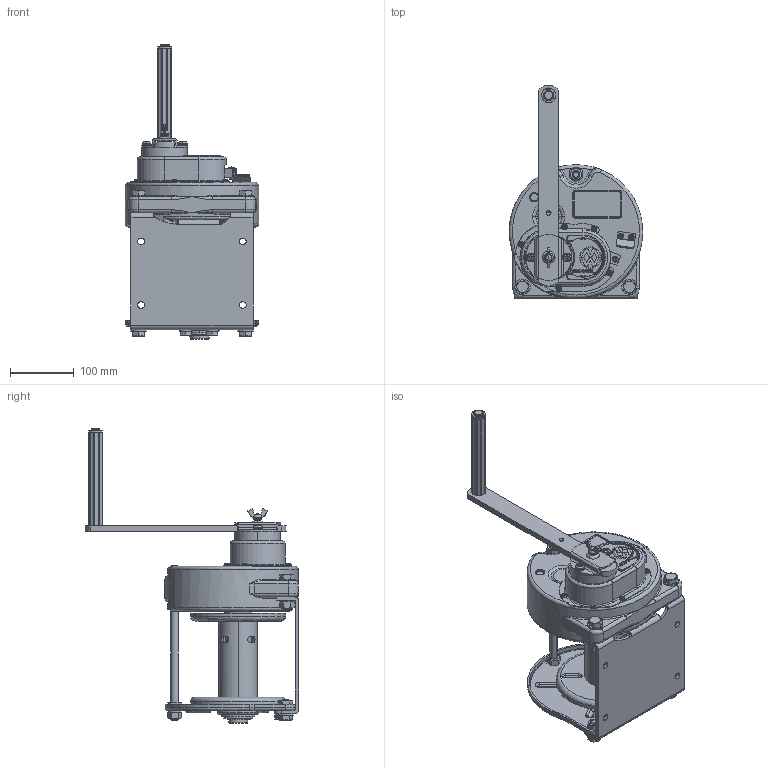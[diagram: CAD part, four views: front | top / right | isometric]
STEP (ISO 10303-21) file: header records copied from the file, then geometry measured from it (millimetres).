
FILE_DESCRIPTION( (''), '2;1');
FILE_NAME ('SB-3.stp','2024-01-09T10:38:20',(''),(''),'spGate 19.8.2 (****-****-****-****)','','');
FILE_SCHEMA (('AUTOMOTIVE_DESIGN'));
Length unit declared in the file: millimetre
Products named in the file (3): Assembly; SB-3-prt0; SB-3-prt1
Assembly tree (2 placements, depth 2):
  Assembly
    SB-3-prt0
    SB-3-prt1
Bounding box: 209.96 x 335.43 x 463.5 mm (x, y, z)
Volume: 3701025.9 mm3; surface area: 584846.8 mm2
Topology: 2 solids, 2 shells, 2475 faces, 6420 edges, 4010 vertices
Faces by surface type: plane 1166, cylinder 775, bspline 462, sphere 72
Entity records: 135816 total; most frequent: CARTESIAN_POINT 26311, ORIENTED_EDGE 12702, DIRECTION 12035, COLOUR_RGB 8828, PRESENTATION_STYLE_ASSIGNMENT 8828, STYLED_ITEM 8828, EDGE_CURVE 6351, DRAUGHTING_PRE_DEFINED_CURVE_FONT 6351
